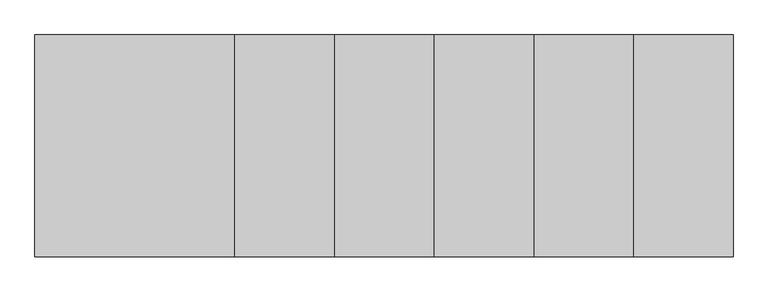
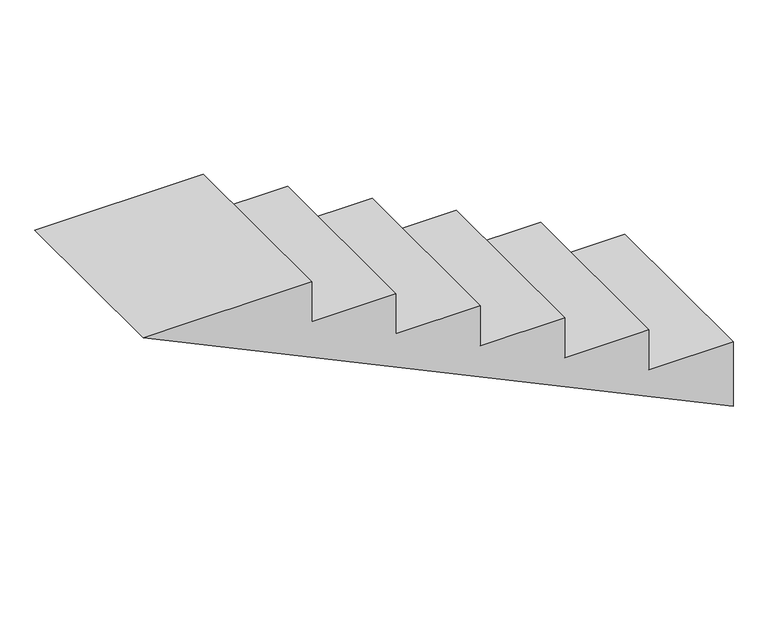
"""IFC4 building model written with IfcOpenShell, lengths in millimetres: fastener geometry, TQS - Escada Família4 : TQS - Escada Família4."""

from ifc_helpers import new_model, si_unit, frame, origin, place, context, project, spatial, polyline, outline, extrude, source, transform, mapped, element, save


def fastener_2cc3f4eb(model_context):
    return source(origin(), model_context, "Body", "SweptSolid", [
        extrude(outline(polyline([(3750.0000954, 2600.0), (4200.0000954, 2600.0), (4200.0000954, 800.0), (1220.4915028, 7100.0), (1950.0000954, 7100.0), (1950.0000954, 6200.0), (2400.0000954, 6200.0), (2400.0000954, 5300.0), (2850.0000954, 5300.0), (2850.0000954, 4400.0), (3300.0000954, 4400.0), (3300.0000954, 3500.0), (3750.0000954, 3500.0), (3750.0000954, 2600.0)])), frame((0.0, 2300.0, 0.0), z_axis=(0.0, 1.0, 0.0), x_axis=(0.0, 0.0, 1.0)), (0.0, 0.0, 1.0), 2000.0),
    ])


if __name__ == "__main__":
    model = new_model("IFC4")
    model_context = context("Model", 3, world=origin())
    ifc_project = project(units=[si_unit("LENGTHUNIT", "METRE", prefix="MILLI")], contexts=[model_context])
    site = spatial("IfcSite", under=ifc_project)
    building = spatial("IfcBuilding", under=site)
    placement = place(None, origin())
    fastener_shape = fastener_2cc3f4eb(model_context)
    element("IfcFastener", 1, ObjectType="TQS - Escada Família4 : TQS - Escada Família4", at=placement, inside=building, context=model_context, shape_type="MappedRepresentation", body=[
        mapped(fastener_shape, transform((0.0, 0.0, 0.0), x_axis=(1.0, 0.0, 0.0), y_axis=(0.0, 1.0, 0.0), z_axis=(0.0, 0.0, 1.0))),
    ])
    save(model, "model.ifc")
